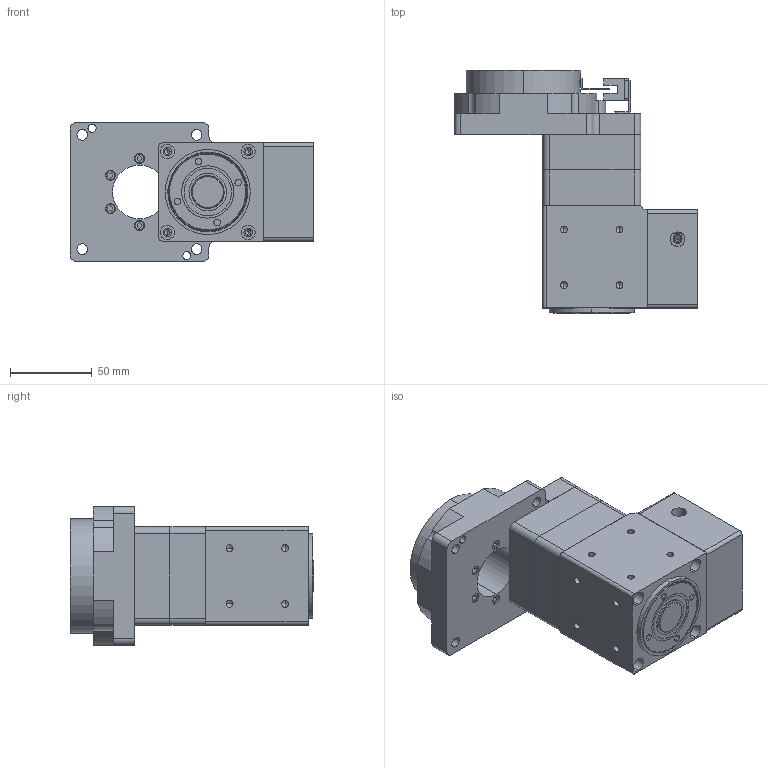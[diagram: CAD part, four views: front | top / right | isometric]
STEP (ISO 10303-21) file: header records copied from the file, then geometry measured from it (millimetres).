
FILE_DESCRIPTION(('Open CASCADE Model'),'2;1');
FILE_NAME('Open CASCADE Shape Model','2026-10-11T03:04:02',('Author'),( 'Open CASCADE'),'Open CASCADE STEP processor 7.8','Open CASCADE 7.8' ,'Unknown');
FILE_SCHEMA(('AUTOMOTIVE_DESIGN { 1 0 10303 214 1 1 1 1 }'));
Length unit declared in the file: millimetre
Products named in the file (4): NTF85-R-10-PVFD60-M4(配伺服400W 输入14-50-70-M4); NTF85-R-10-PVFD60-M4(配伺服400W 输入14-50-70-M4)-01; NTF85-R-10-PVFD60-M4(配伺服400W 输入14-50-70-M4)-02; NTF85-R-10-PVFD60-M4(配伺服400W 输入14-50-70-M4)-03
Assembly tree (3 placements, depth 2):
  NTF85-R-10-PVFD60-M4(配伺服400W 输入14-50-70-M4)
    NTF85-R-10-PVFD60-M4(配伺服400W 输入14-50-70-M4)-01
    NTF85-R-10-PVFD60-M4(配伺服400W 输入14-50-70-M4)-02
    NTF85-R-10-PVFD60-M4(配伺服400W 输入14-50-70-M4)-03
Bounding box: 149.3 x 149 x 85 mm (x, y, z)
Volume: 632368.3 mm3; surface area: 191312.1 mm2
Topology: 17 solids, 25 shells, 1998 faces, 5812 edges, 3784 vertices
Faces by surface type: plane 1012, cylinder 473, bspline 304, cone 209
Entity records: 230201 total; most frequent: CARTESIAN_POINT 127259, DIRECTION 15946, ORIENTED_EDGE 11464, PCURVE 11464, DEFINITIONAL_REPRESENTATION 11464, LINE 9107, VECTOR 9107, EDGE_CURVE 5732
